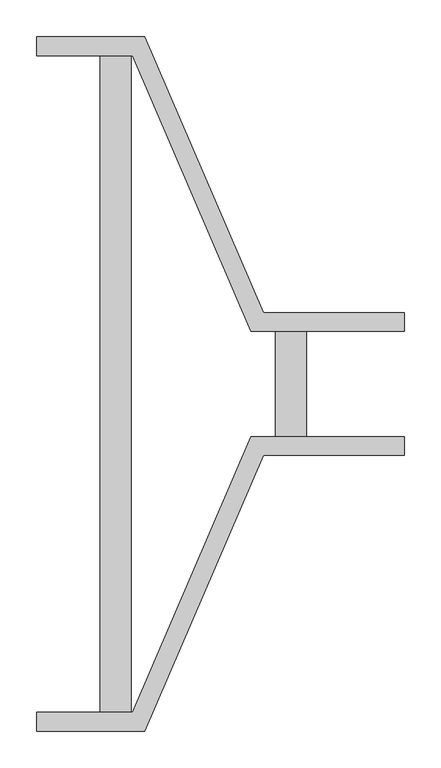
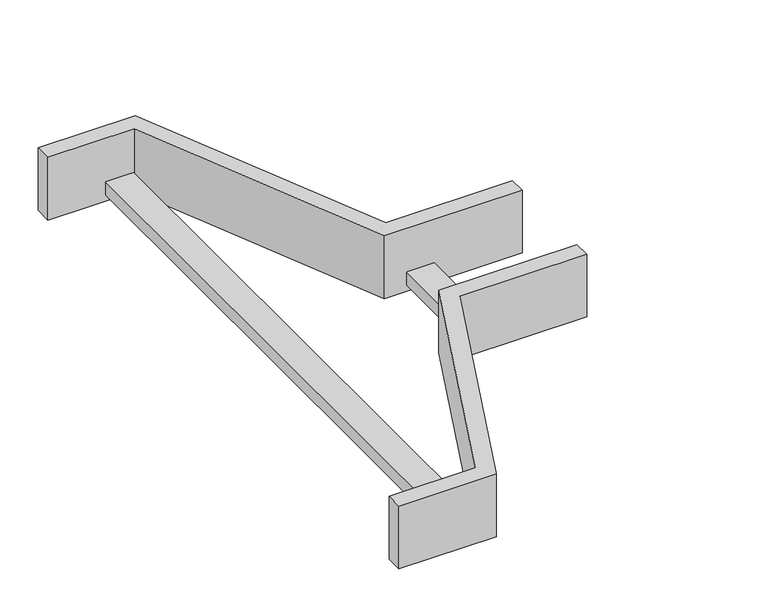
"""IFC4 building model written with IfcOpenShell, lengths in millimetres: cable carrier fitting geometry, Legrand_CableLadder_Swifts_Topaz_Reducer-13 : Straight - Hot Dip Galvanised (after manufacture)."""

from ifc_helpers import new_model, si_unit, frame, origin, place, context, project, spatial, polyline, outline, extrude, source, transform, mapped, element, save


def cable_carrier_fitting_3448f65d(model_context):
    return source(origin(), model_context, "Body", "SweptSolid", [
        extrude(outline(polyline([(-250.0, 446.5), (-250.0, 472.0), (-103.0410093, 472.0), (58.3924984, 97.0), (250.0, 97.0), (250.0, 71.5), (41.6075016, 71.5), (-119.826006, 446.5), (-250.0, 446.5)])), frame((0.0, 0.0, -50.0), z_axis=(0.0, 0.0, 1.0), x_axis=(1.0, 0.0, 0.0)), (0.0, 0.0, 1.0), 100.0),
        extrude(outline(polyline([(-250.0, -472.0), (-250.0, -446.5), (-119.826006, -446.5), (41.6075016, -71.5), (250.0, -71.5), (250.0, -97.0), (58.3924984, -97.0), (-103.0410093, -472.0), (-250.0, -472.0)])), frame((0.0, 0.0, -50.0), z_axis=(0.0, 0.0, 1.0), x_axis=(1.0, 0.0, 0.0)), (0.0, 0.0, 1.0), 100.0),
        extrude(outline(polyline([(117.0, 71.5), (117.0, -71.5), (75.0, -71.5), (75.0, 71.5), (117.0, 71.5)])), frame((0.0, 0.0, -40.0), z_axis=(0.0, 0.0, 1.0), x_axis=(1.0, 0.0, 0.0)), (0.0, 0.0, 1.0), 21.0),
        extrude(outline(polyline([(-163.4335076, -446.5), (-163.4335076, 446.5), (-121.4335076, 446.5), (-121.4335076, -446.5), (-163.4335076, -446.5)])), frame((0.0, 0.0, -40.0), z_axis=(0.0, 0.0, 1.0), x_axis=(1.0, 0.0, 0.0)), (0.0, 0.0, 1.0), 21.0),
    ])


if __name__ == "__main__":
    model = new_model("IFC4")
    model_context = context("Model", 3, world=origin())
    ifc_project = project(units=[si_unit("LENGTHUNIT", "METRE", prefix="MILLI")], contexts=[model_context])
    site = spatial("IfcSite", under=ifc_project)
    building = spatial("IfcBuilding", under=site)
    placement = place(None, origin())
    cable_carrier_fitting_shape = cable_carrier_fitting_3448f65d(model_context)
    element("IfcCableCarrierFitting", 1, ObjectType="Legrand_CableLadder_Swifts_Topaz_Reducer-13 : Straight - Hot Dip Galvanised (after manufacture)", at=placement, inside=building, context=model_context, shape_type="MappedRepresentation", body=[
        mapped(cable_carrier_fitting_shape, transform((0.0, 0.0, 0.0), x_axis=(1.0, 0.0, 0.0), y_axis=(0.0, 1.0, 0.0), z_axis=(0.0, 0.0, 1.0))),
    ])
    save(model, "model.ifc")
